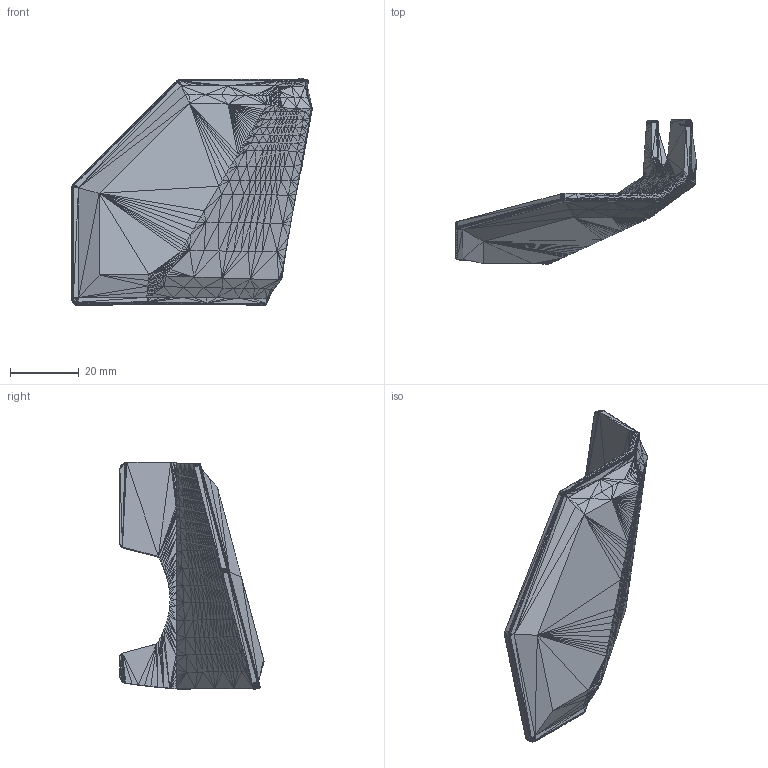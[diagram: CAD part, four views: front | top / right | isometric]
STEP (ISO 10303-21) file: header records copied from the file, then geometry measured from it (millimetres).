
FILE_DESCRIPTION((''),'2;1');
FILE_NAME('Palm Inner', '2025-03-27T07:34:38', (''), (''), 'ImageToStl.com STEP Converter','', '');
FILE_SCHEMA(('AUTOMOTIVE_DESIGN_CC2'));
Length unit declared in the file: metre
Products named in the file (1): product0
Bounding box: 70.11 x 42.01 x 66.17 mm (x, y, z)
Surface area: 10381.8 mm2 (no closed solid volume)
Topology: 0 solids, 9554 shells, 9554 faces, 28662 edges, 4779 vertices
Faces by surface type: plane 9554
Entity records: 229335 total; most frequent: DIRECTION 47772, ORIENTED_EDGE 28662, EDGE_CURVE 28662, LINE 28662, VECTOR 28662, AXIS2_PLACEMENT_3D 9555, STYLED_ITEM 9555, FACE_SURFACE 9554
